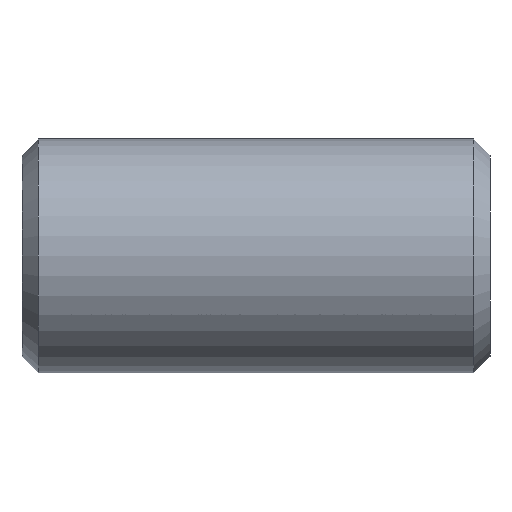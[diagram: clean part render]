
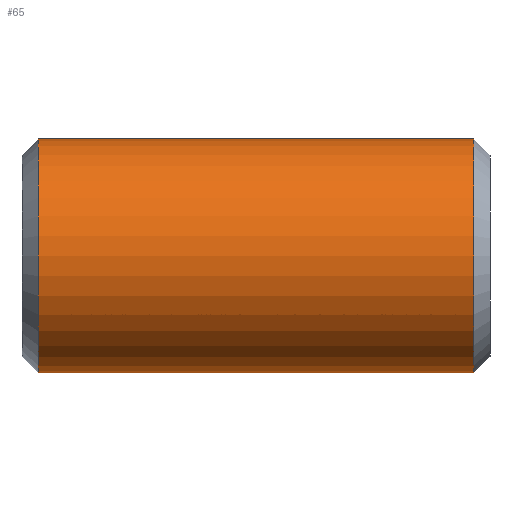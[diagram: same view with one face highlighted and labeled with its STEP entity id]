
A CAD part, left-side view. The second image highlights one B-rep face of the part: STEP entity #65.
In plain terms, the highlighted cylindrical face has radius 5 mm (diameter 10 mm), a full revolution.
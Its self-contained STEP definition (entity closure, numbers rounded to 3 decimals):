
#65=ADVANCED_FACE('',(#66),#96,.T.);
#66=FACE_BOUND('',#67,.T.);
#67=EDGE_LOOP('',(#68,#77,#84,#93,#95));
#68=ORIENTED_EDGE('',*,*,#69,.T.);
#69=EDGE_CURVE('',#70,#70,#72,.T.);
#70=VERTEX_POINT('',#71);
#71=CARTESIAN_POINT('',(0.,4.2,-5.0));
#72=CIRCLE('',#73,5.0);
#73=AXIS2_PLACEMENT_3D('',#74,#75,#76);
#74=CARTESIAN_POINT('',(0.0,4.2,0.0));
#75=DIRECTION('',(0.0,1.0,0.0));
#76=DIRECTION('',(0.0,0.0,-1.0));
#77=ORIENTED_EDGE('',*,*,#78,.T.);
#78=EDGE_CURVE('',#70,#79,#81,.F.);
#79=VERTEX_POINT('',#80);
#80=CARTESIAN_POINT('',(0.,22.8,-5.0));
#81=B_SPLINE_CURVE_WITH_KNOTS('',1,(#82,#83),.UNSPECIFIED.,.F.,.U.,(2,2),(-22.8,-4.2),.PIECEWISE_BEZIER_KNOTS.);
#82=CARTESIAN_POINT('',(0.,22.8,-5.0));
#83=CARTESIAN_POINT('',(0.,4.2,-5.0));
#84=ORIENTED_EDGE('',*,*,#85,.T.);
#85=EDGE_CURVE('',#79,#86,#88,.T.);
#86=VERTEX_POINT('',#87);
#87=CARTESIAN_POINT('',(0.,22.8,5.0));
#88=CIRCLE('',#89,5.0);
#89=AXIS2_PLACEMENT_3D('',#90,#91,#92);
#90=CARTESIAN_POINT('',(0.0,22.8,0.0));
#91=DIRECTION('',(0.0,-1.0,0.0));
#92=DIRECTION('',(0.0,0.0,1.0));
#93=ORIENTED_EDGE('',*,*,#94,.T.);
#94=EDGE_CURVE('',#86,#79,#88,.T.);
#95=ORIENTED_EDGE('',*,*,#78,.F.);
#96=CYLINDRICAL_SURFACE('',#97,5.0);
#97=AXIS2_PLACEMENT_3D('',#98,#99,#100);
#98=CARTESIAN_POINT('',(0.0,0.0,0.0));
#99=DIRECTION('',(0.0,-1.0,0.0));
#100=DIRECTION('',(0.0,0.0,-1.0));
